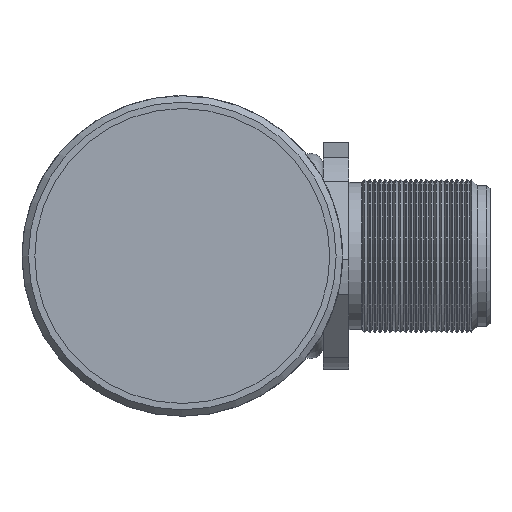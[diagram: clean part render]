
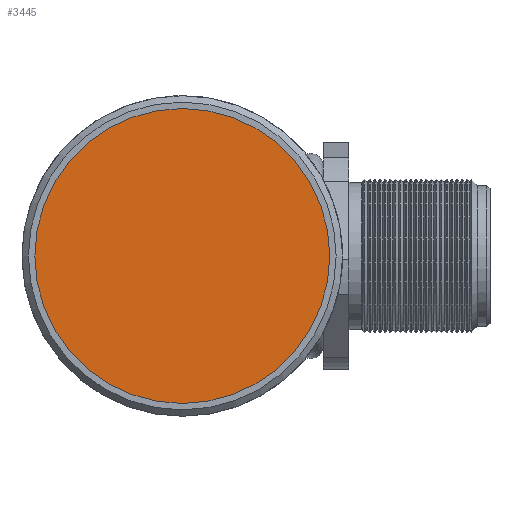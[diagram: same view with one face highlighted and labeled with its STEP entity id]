
A CAD part, left-side view. The second image highlights one B-rep face of the part: STEP entity #3445.
In plain terms, the highlighted planar face has unit normal (-1, 0, 0).
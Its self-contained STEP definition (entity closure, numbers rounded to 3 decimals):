
#431=PLANE('',#3719);
#833=VERTEX_POINT('',#4095);
#1145=CIRCLE('',#3718,11.5);
#1313=EDGE_CURVE('',#833,#833,#1145,.T.);
#1782=ORIENTED_EDGE('',*,*,#1313,.T.);
#2701=EDGE_LOOP('',(#1782));
#3078=FACE_BOUND('',#2701,.T.);
#3445=ADVANCED_FACE('',(#3078),#431,.F.);
#3718=AXIS2_PLACEMENT_3D('',#4094,#5992,#5993);
#3719=AXIS2_PLACEMENT_3D('',#4096,#5994,$);
#4094=CARTESIAN_POINT('',(-31.,0.,0.));
#4095=CARTESIAN_POINT('',(-31.,0.,-11.5));
#4096=CARTESIAN_POINT('',(-31.,0.,0.));
#5992=DIRECTION('',(-1.,0.,0.));
#5993=DIRECTION('',(0.,0.,-11.5));
#5994=DIRECTION('',(1.,0.,0.));
